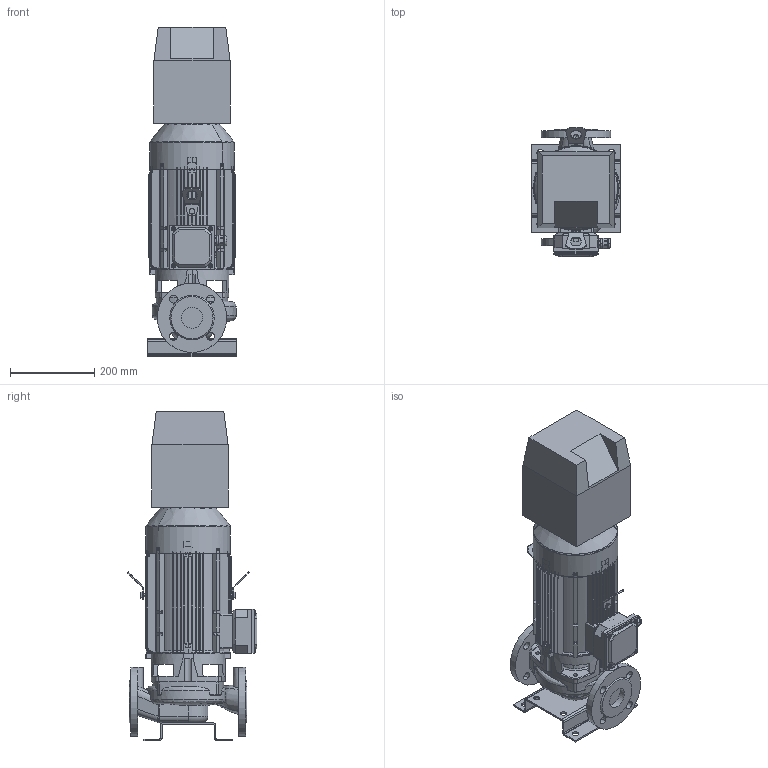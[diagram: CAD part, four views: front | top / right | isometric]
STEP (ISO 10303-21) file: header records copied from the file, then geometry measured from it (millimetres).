
FILE_DESCRIPTION(('STEP AP214'),'1');
FILE_NAME('export.stp','2018-08-08T13:26:53',(' '),(' '),'Spatial InterOp 3D',' ',' ');
FILE_SCHEMA(('AUTOMOTIVE_DESIGN { 1 0 10303 214 1 1 1 1 }'));
Length unit declared in the file: millimetre
Products named in the file (25): W_L50D2NC300KP; V_TLL50ABC; V_PPL50ABC; V_JALKA35973; 160017; 160009; V_MKP-100_F16; 160141; 160137; 160138; 160139; 160140; Koura_Ale_M5; Plug_Blind_M20; Sealing_Plug_M20; DIN_7985-M5X8; DIN_7985-M5X12; 480041; 480040___; 480043; 480042___; 160134; DIN_EN_24017_-_M8_16-Stainless_S; 160136; NC_Size1
Assembly tree (29 placements, depth 4):
  W_L50D2NC300KP
    V_TLL50ABC
    V_PPL50ABC
    V_JALKA35973
    V_MKP-100_F16
      160017
        160009
      160141
        160137
        160138
        160139
        160140
        Koura_Ale_M5
        Plug_Blind_M20
        Sealing_Plug_M20
        DIN_7985-M5X8
        DIN_7985-M5X12  x4
      480041
        480040___
      480043
        480042___
      160134  x2
      DIN_EN_24017_-_M8_16-Stainless_S  x2
      160136
    NC_Size1
Bounding box: 210 x 308.62 x 784 mm (x, y, z)
Volume: 11848944.5 mm3; surface area: 1741965.3 mm2
Topology: 24 solids, 24 shells, 2368 faces, 6307 edges, 4025 vertices
Faces by surface type: plane 1083, cylinder 747, torus 211, cone 171, bspline 145, sphere 11
Entity records: 87081 total; most frequent: CARTESIAN_POINT 27663, ORIENTED_EDGE 12006, DIRECTION 11405, EDGE_CURVE 6003, AXIS2_PLACEMENT_3D 4235, VERTEX_POINT 3847, LINE 2935, VECTOR 2935
